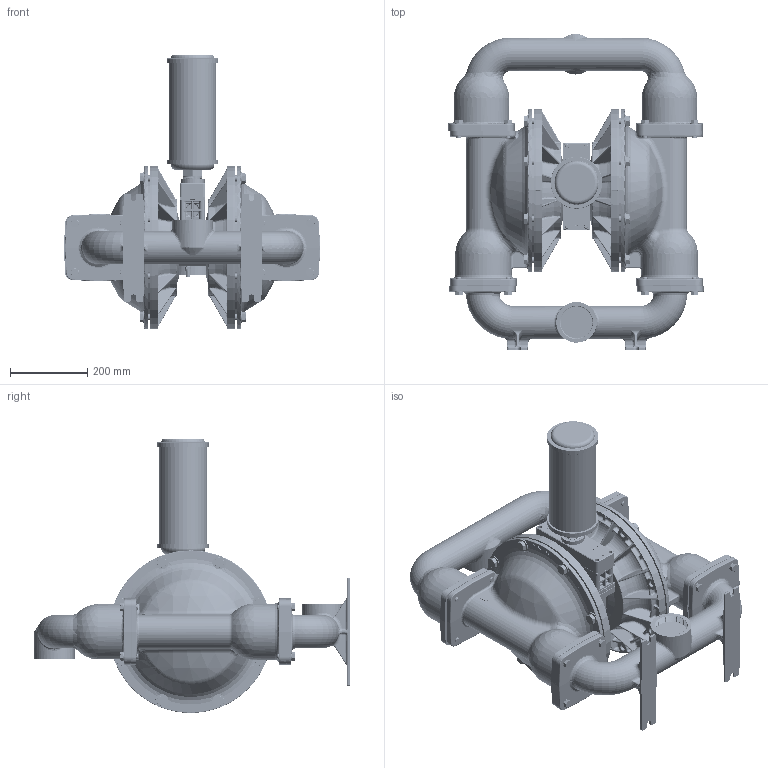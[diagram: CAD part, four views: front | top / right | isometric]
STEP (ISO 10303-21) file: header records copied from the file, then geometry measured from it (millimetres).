
FILE_DESCRIPTION (( 'STEP AP203' ), '1' );
FILE_NAME ('PS1520_ADV_SS s.STEP', '2022-05-25T12:11:14', ( '' ), ( '' ), 'SwSTEP 2.0', 'SolidWorks 2019', '' );
FILE_SCHEMA (( 'CONFIG_CONTROL_DESIGN' ));
Length unit declared in the file: inch
Products named in the file (1): PS1520_ADV_SS s
Bounding box: 662.27 x 816.48 x 710.18 mm (x, y, z)
Volume: 53113539.8 mm3; surface area: 2432220 mm2
Topology: 1 solids, 1 shells, 9999 faces, 24557 edges, 14784 vertices
Faces by surface type: plane 3869, bspline 2586, cylinder 1268, torus 1018, cone 746, sphere 512
Entity records: 588795 total; most frequent: CARTESIAN_POINT 374479, ORIENTED_EDGE 49026, DIRECTION 39114, EDGE_CURVE 24513, AXIS2_PLACEMENT_3D 14912, VERTEX_POINT 14776, EDGE_LOOP 10391, ADVANCED_FACE 9999
